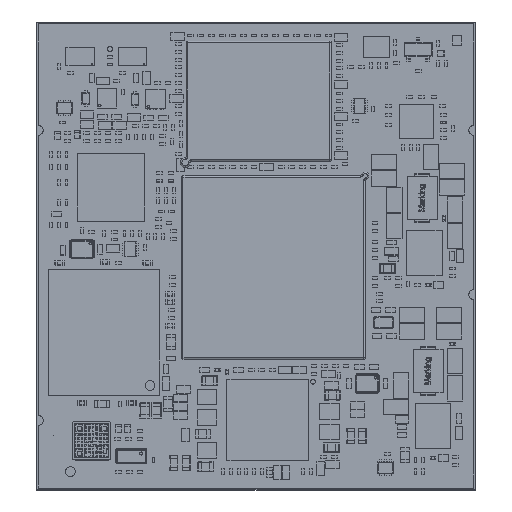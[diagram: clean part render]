
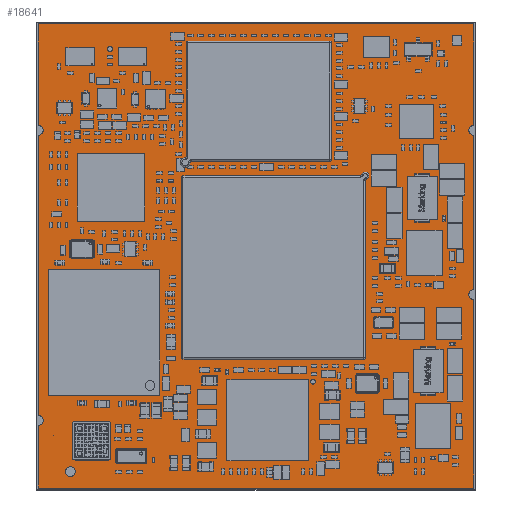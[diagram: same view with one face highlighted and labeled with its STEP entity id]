
A CAD part, top view. The second image highlights one B-rep face of the part: STEP entity #18641.
In plain terms, the highlighted planar face has unit normal (0, 0, 1).
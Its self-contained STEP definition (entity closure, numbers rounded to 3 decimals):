
#18641=ADVANCED_FACE('',(#32440),#32441,.T.);
#32440=FACE_OUTER_BOUND('',#46222,.T.);
#32441=PLANE('',#46223);
#46222=EDGE_LOOP('',(#66208,#66209,#66210,#66211,#66212,#66213,#66214,#66215,#66216,#66217,#66218,#66219));
#46223=AXIS2_PLACEMENT_3D('',#66220,#66221,#66222);
#66208=ORIENTED_EDGE('',*,*,#74587,.F.);
#66209=ORIENTED_EDGE('',*,*,#74588,.F.);
#66210=ORIENTED_EDGE('',*,*,#74589,.F.);
#66211=ORIENTED_EDGE('',*,*,#74590,.F.);
#66212=ORIENTED_EDGE('',*,*,#74591,.F.);
#66213=ORIENTED_EDGE('',*,*,#74592,.F.);
#66214=ORIENTED_EDGE('',*,*,#74593,.F.);
#66215=ORIENTED_EDGE('',*,*,#74594,.F.);
#66216=ORIENTED_EDGE('',*,*,#74595,.F.);
#66217=ORIENTED_EDGE('',*,*,#74596,.F.);
#66218=ORIENTED_EDGE('',*,*,#74597,.F.);
#66219=ORIENTED_EDGE('',*,*,#74598,.F.);
#66220=CARTESIAN_POINT('',(22.5,24.015,1.666));
#66221=DIRECTION('',(0.,0.,1.0));
#66222=DIRECTION('',(1.0,0.0,0.));
#74587=EDGE_CURVE('',#84204,#84205,#84206,.T.);
#74588=EDGE_CURVE('',#84207,#84204,#84208,.T.);
#74589=EDGE_CURVE('',#84209,#84207,#84210,.T.);
#74590=EDGE_CURVE('',#84211,#84209,#84212,.T.);
#74591=EDGE_CURVE('',#84213,#84211,#84214,.T.);
#74592=EDGE_CURVE('',#84215,#84213,#84216,.T.);
#74593=EDGE_CURVE('',#84217,#84215,#84218,.T.);
#74594=EDGE_CURVE('',#84219,#84217,#84220,.T.);
#74595=EDGE_CURVE('',#84221,#84219,#84222,.T.);
#74596=EDGE_CURVE('',#84223,#84221,#84224,.T.);
#74597=EDGE_CURVE('',#84225,#84223,#84226,.T.);
#74598=EDGE_CURVE('',#84205,#84225,#84227,.T.);
#84204=VERTEX_POINT('',#97416);
#84205=VERTEX_POINT('',#97417);
#84206=CIRCLE('',#97418,0.5);
#84207=VERTEX_POINT('',#97419);
#84208=LINE('',#97420,#97421);
#84209=VERTEX_POINT('',#97422);
#84210=LINE('',#97423,#97424);
#84211=VERTEX_POINT('',#97425);
#84212=LINE('',#97426,#97427);
#84213=VERTEX_POINT('',#97428);
#84214=CIRCLE('',#97429,0.5);
#84215=VERTEX_POINT('',#97430);
#84216=LINE('',#97431,#97432);
#84217=VERTEX_POINT('',#97433);
#84218=CIRCLE('',#97434,0.5);
#84219=VERTEX_POINT('',#97435);
#84220=LINE('',#97436,#97437);
#84221=VERTEX_POINT('',#97438);
#84222=LINE('',#97439,#97440);
#84223=VERTEX_POINT('',#97441);
#84224=LINE('',#97442,#97443);
#84225=VERTEX_POINT('',#97444);
#84226=CIRCLE('',#97445,0.5);
#84227=LINE('',#97446,#97447);
#97416=CARTESIAN_POINT('',(45.0,37.5,1.666));
#97417=CARTESIAN_POINT('',(45.0,36.5,1.666));
#97418=AXIS2_PLACEMENT_3D('',#104979,#104980,#104981);
#97419=CARTESIAN_POINT('',(45.0,48.0,1.666));
#97420=CARTESIAN_POINT('',(45.0,42.75,1.666));
#97421=VECTOR('',#104982,1.0);
#97422=CARTESIAN_POINT('',(0.,48.0,1.666));
#97423=CARTESIAN_POINT('',(22.5,48.0,1.666));
#97424=VECTOR('',#104983,1.0);
#97425=CARTESIAN_POINT('',(0.,37.5,1.666));
#97426=CARTESIAN_POINT('',(0.,42.75,1.666));
#97427=VECTOR('',#104984,1.0);
#97428=CARTESIAN_POINT('',(0.,36.5,1.666));
#97429=AXIS2_PLACEMENT_3D('',#104985,#104986,#104987);
#97430=CARTESIAN_POINT('',(0.,7.5,1.666));
#97431=CARTESIAN_POINT('',(0.,22.0,1.666));
#97432=VECTOR('',#104988,1.0);
#97433=CARTESIAN_POINT('',(0.,6.5,1.666));
#97434=AXIS2_PLACEMENT_3D('',#104989,#104990,#104991);
#97435=CARTESIAN_POINT('',(0.,0.,1.666));
#97436=CARTESIAN_POINT('',(0.,3.25,1.666));
#97437=VECTOR('',#104992,1.0);
#97438=CARTESIAN_POINT('',(45.0,0.,1.666));
#97439=CARTESIAN_POINT('',(22.5,0.,1.666));
#97440=VECTOR('',#104993,1.0);
#97441=CARTESIAN_POINT('',(45.0,19.5,1.666));
#97442=CARTESIAN_POINT('',(45.0,9.75,1.666));
#97443=VECTOR('',#104994,1.0);
#97444=CARTESIAN_POINT('',(45.0,20.5,1.666));
#97445=AXIS2_PLACEMENT_3D('',#104995,#104996,#104997);
#97446=CARTESIAN_POINT('',(45.0,28.5,1.666));
#97447=VECTOR('',#104998,1.0);
#104979=CARTESIAN_POINT('',(45.0,37.0,1.666));
#104980=DIRECTION('',(0.0,-0.0,1.0));
#104981=DIRECTION('',(0.0,1.0,0.0));
#104982=DIRECTION('',(0.0,-1.0,0.0));
#104983=DIRECTION('',(1.0,0.0,0.0));
#104984=DIRECTION('',(0.,1.0,0.0));
#104985=CARTESIAN_POINT('',(0.,37.0,1.666));
#104986=DIRECTION('',(0.0,0.0,1.0));
#104987=DIRECTION('',(0.0,-1.0,0.0));
#104988=DIRECTION('',(0.,1.0,0.0));
#104989=CARTESIAN_POINT('',(0.,7.0,1.666));
#104990=DIRECTION('',(0.0,0.0,1.0));
#104991=DIRECTION('',(0.0,-1.0,0.0));
#104992=DIRECTION('',(0.0,1.0,0.0));
#104993=DIRECTION('',(-1.0,0.0,0.0));
#104994=DIRECTION('',(0.0,-1.0,0.0));
#104995=CARTESIAN_POINT('',(45.0,20.0,1.666));
#104996=DIRECTION('',(0.0,-0.0,1.0));
#104997=DIRECTION('',(0.0,1.0,0.0));
#104998=DIRECTION('',(0.0,-1.0,0.0));
